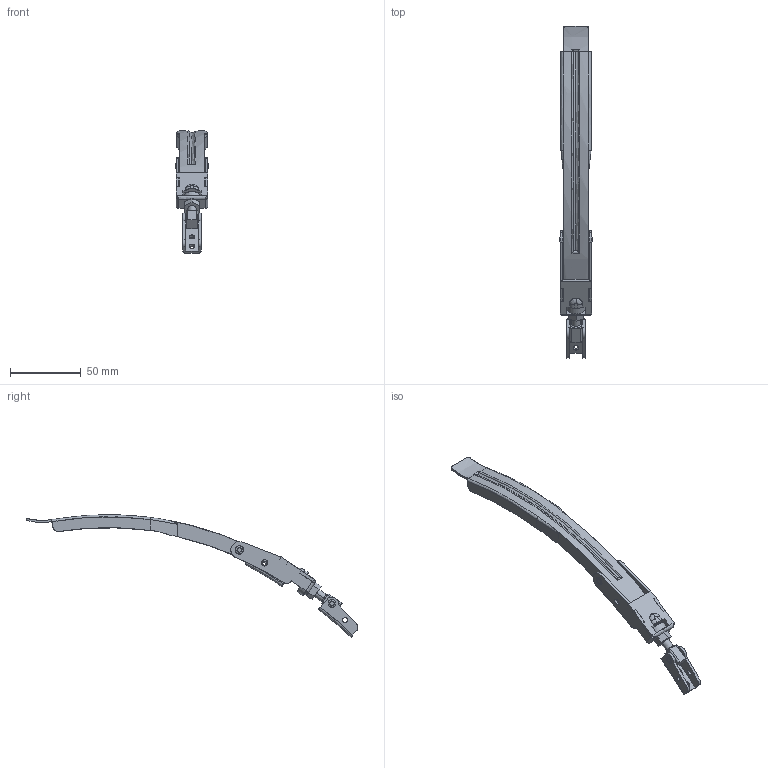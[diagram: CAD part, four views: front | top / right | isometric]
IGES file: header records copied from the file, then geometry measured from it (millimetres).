
Start section: SolidWorks IGES file using analytic representation for surfaces
Global section: file name: C:\Users\cbrechard\Desktop\GR 59.IGS; native system: SolidWorks 2017; preprocessor: SolidWorks 2017; author: cbrechard; date: 191016.154102; units: millimetre
Bounding box: 22.7 x 235.25 x 86.74 mm (x, y, z)
Surface area: 26111 mm2 (no closed solid volume)
Topology: 0 solids, 0 shells, 301 faces, 5183 edges, 5183 vertices
Faces by surface type: bspline 159, revolution 142
